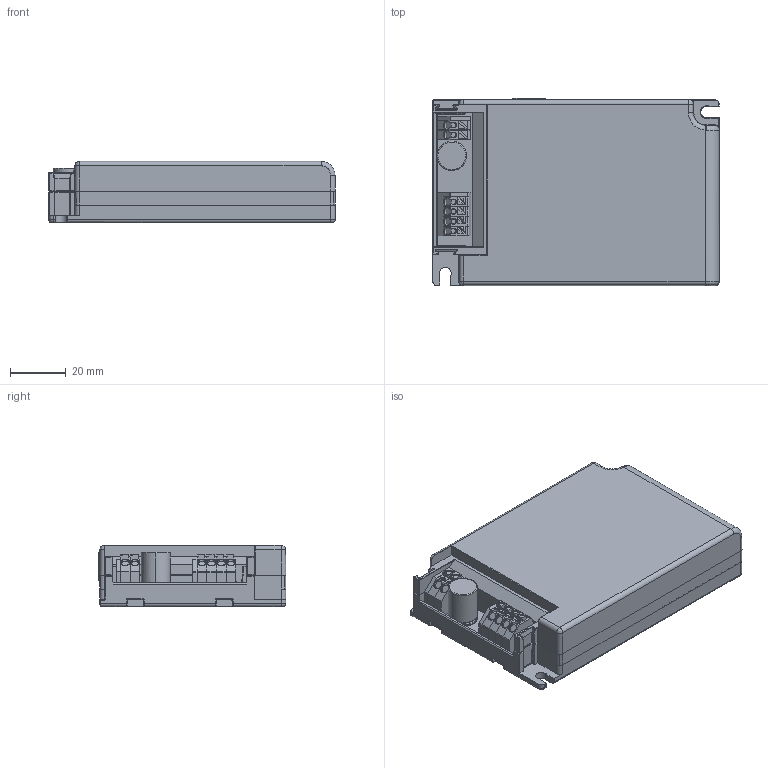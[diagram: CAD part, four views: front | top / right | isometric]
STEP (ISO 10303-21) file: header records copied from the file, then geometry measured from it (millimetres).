
FILE_DESCRIPTION (( 'STEP AP214' ), '1' );
FILE_NAME ('4356098swm000.step', '2021-10-23T02:14:36', ( 'Windows User' ), ( '' ), 'SwSTEP 2.0', 'SolidWorks 2020', '' );
FILE_SCHEMA (( 'AUTOMOTIVE_DESIGN' ));
Length unit declared in the file: millimetre
Products named in the file (1): 4356098swm000
Bounding box: 103 x 67.52 x 22 mm (x, y, z)
Volume: 137698.7 mm3; surface area: 27027.7 mm2
Topology: 7 solids, 7 shells, 1144 faces, 2998 edges, 1847 vertices
Faces by surface type: plane 566, cylinder 362, bspline 185, cone 31
Entity records: 40956 total; most frequent: CARTESIAN_POINT 14882, ORIENTED_EDGE 5938, DIRECTION 4664, EDGE_CURVE 2969, VERTEX_POINT 1847, LINE 1748, VECTOR 1748, AXIS2_PLACEMENT_3D 1458
